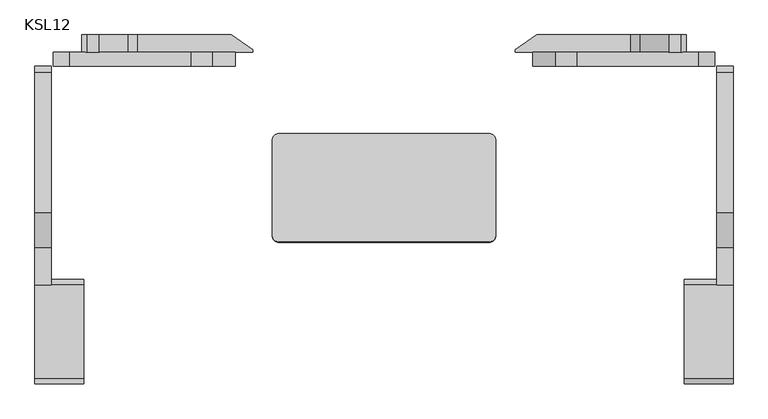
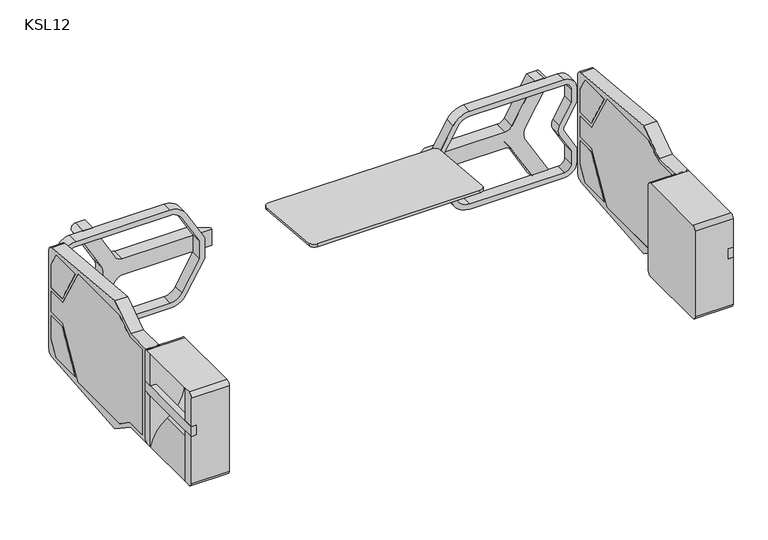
"""IFC4 building model written with IfcOpenShell, lengths in millimetres: proxy geometry, d&b SL-Series KSL : KSL12."""

from ifc_helpers import new_model, si_unit, point, frame, frame_2d, origin, place, context, project, spatial, polyline, circle_curve, trimmed, segment, composite_curve, outline, extrude, source, transform, mapped, element, save
from ifc_brep_helpers import plane_surface, cylinder_surface, revolved_surface, advanced_brep


def ksl12_ca8f280e(model_context):
    return source(origin(), model_context, "Body", "SolidModel", [
        advanced_brep(
        [(865.9830372, 210.1255973, -23.0744291), (907.8409317, 210.1255973, -95.5744291), (924.8127716, 210.1255973, -95.5744291), (932.0036451, 210.1255973, -83.1194708), (891.0638565, 210.1255973, -12.209677), (891.0638565, 210.1255973, 12.209677), (932.0036451, 210.1255973, 83.1194708), (924.8127716, 210.1255973, 95.5744291), (907.8409317, 210.1255973, 95.5744291), (865.98543, 210.1255973, 23.0785736), (852.995049, 210.1255973, 15.5785736), (687.9784595, 210.1255973, 15.5785736), (687.9784595, 210.1255973, -15.5744291), (852.9926561, 210.1255973, -15.5744291), (865.9830372, 235.1255973, -23.0744291), (852.9926561, 235.1255973, -15.5744291), (718.916993, 235.1255973, -15.5744291), (718.916993, 235.1255973, 15.5785736), (852.995049, 235.1255973, 15.5785736), (865.98543, 235.1255973, 23.0785736), (907.8409317, 235.1255973, 95.5744291), (924.8127716, 235.1255973, 95.5744291), (932.0036451, 235.1255973, 83.1194708), (891.0638565, 235.1255973, 12.209677), (891.0638565, 235.1255973, -12.209677), (932.0036451, 235.1255973, -83.1194708), (924.8127716, 235.1255973, -95.5744291), (907.8409317, 235.1255973, -95.5744291), (687.9784595, 214.1255973, -15.5744291), (687.9784595, 214.1255973, 15.5785736)],
        [
            (0, 1),
            (1, 2),
            (2, 3, circle_curve(frame((924.8127716, 210.1255973, -87.2711236), z_axis=(0.0, -1.0, 0.0), x_axis=(-1.0, 0.0, 0.0)), 8.3033055)),
            (3, 4),
            (4, 5, circle_curve(frame((912.2116375, 210.1255973, 0.0), z_axis=(0.0, 1.0, 0.0), x_axis=(-1.0, 0.0, 0.0)), 24.4193541)),
            (5, 6),
            (6, 7, circle_curve(frame((924.8127716, 210.1255973, 87.2711236), z_axis=(0.0, -1.0, 0.0), x_axis=(-1.0, 0.0, 0.0)), 8.3033055)),
            (7, 8),
            (8, 9),
            (9, 10, circle_curve(frame((852.995049, 210.1255973, 30.5785736), z_axis=(0.0, 1.0, 0.0), x_axis=(-1.0, 0.0, 0.0)), 15.0)),
            (10, 11),
            (11, 12),
            (12, 13),
            (13, 0, circle_curve(frame((852.9926561, 210.1255973, -30.5744291), z_axis=(0.0, 1.0, 0.0), x_axis=(-1.0, 0.0, 0.0)), 15.0)),
            (14, 15, circle_curve(frame((852.9926561, 235.1255973, -30.5744291), z_axis=(0.0, -1.0, 0.0), x_axis=(-1.0, 0.0, 0.0)), 15.0)),
            (15, 16),
            (16, 17),
            (17, 18),
            (18, 19, circle_curve(frame((852.995049, 235.1255973, 30.5785736), z_axis=(0.0, -1.0, 0.0), x_axis=(-1.0, 0.0, 0.0)), 15.0)),
            (19, 20),
            (20, 21),
            (21, 22, circle_curve(frame((924.8127716, 235.1255973, 87.2711236), z_axis=(0.0, 1.0, 0.0), x_axis=(-1.0, 0.0, 0.0)), 8.3033055)),
            (22, 23),
            (23, 24, circle_curve(frame((912.2116375, 235.1255973, 0.0), z_axis=(0.0, -1.0, 0.0), x_axis=(-1.0, 0.0, 0.0)), 24.4193541)),
            (24, 25),
            (25, 26, circle_curve(frame((924.8127716, 235.1255973, -87.2711236), z_axis=(0.0, 1.0, 0.0), x_axis=(-1.0, 0.0, 0.0)), 8.3033055)),
            (26, 27),
            (27, 14),
            (13, 15),
            (14, 0),
            (12, 28),
            (28, 16),
            (10, 18),
            (17, 29),
            (29, 11),
            (9, 19),
            (8, 20),
            (7, 21),
            (6, 22),
            (5, 23),
            (4, 24),
            (3, 25),
            (2, 26),
            (1, 27),
            (28, 29),
        ],
        [
            plane_surface(frame((906.5442544, 210.1255973, -93.3285181), z_axis=(0.0, -1.0, 0.0), x_axis=(0.5000000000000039, 0.0, -0.8660254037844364))),
            plane_surface(frame((906.5442544, 235.1255973, -93.3285181), z_axis=(0.0, 1.0, 0.0), x_axis=(-0.5000000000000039, 0.0, 0.8660254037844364))),
            revolved_surface(polyline([(837.9926561, 235.1255973, -30.5744291), (837.9926561, 210.1255973, -30.5744291)]), (852.9926561, 235.1255973, -30.5744291), (0.0, 1.0, 0.0)),
            plane_surface(frame((773.1519794, 210.1255973, -15.5744291), z_axis=(0.0, 0.0, -1.0), x_axis=(0.0, 1.0, 0.0))),
            plane_surface(frame((852.995049, 210.1255973, 15.5785736), z_axis=(0.0, 0.0, 1.0), x_axis=(0.0, 1.0, 0.0))),
            revolved_surface(polyline([(837.995049, 235.1255973, 30.5785736), (837.995049, 210.1255973, 30.5785736)]), (852.995049, 235.1255973, 30.5785736), (0.0, 1.0, 0.0)),
            plane_surface(frame((907.8409317, 210.1255973, 95.5744291), z_axis=(-0.8660254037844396, 0.0, 0.4999999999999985), x_axis=(0.0, 1.0, 0.0))),
            plane_surface(frame((924.8127716, 210.1255973, 95.5744291), z_axis=(0.0, 0.0, 1.0), x_axis=(0.0, 1.0, 0.0))),
            cylinder_surface(frame((924.8127716, 235.1255973, 87.2711236), z_axis=(0.0, -1.0, 0.0), x_axis=(-1.0, 0.0, 0.0)), 8.3033055),
            plane_surface(frame((891.0638565, 210.1255973, 12.209677), z_axis=(0.86602540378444, 0.0, -0.4999999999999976), x_axis=(0.0, 1.0, 0.0))),
            revolved_surface(polyline([(887.7922834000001, 235.1255973, 0.0), (887.7922834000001, 210.1255973, 0.0)]), (912.2116375, 235.1255973, 0.0), (0.0, 1.0, 0.0)),
            plane_surface(frame((932.0036451, 210.1255973, -83.1194708), z_axis=(0.8660254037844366, 0.0, 0.5000000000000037), x_axis=(0.0, 1.0, 0.0))),
            cylinder_surface(frame((924.8127716, 235.1255973, -87.2711236), z_axis=(0.0, -1.0, 0.0), x_axis=(-1.0, 0.0, 0.0)), 8.3033055),
            plane_surface(frame((907.8409317, 210.1255973, -95.5744291), z_axis=(0.0, 0.0, -1.0), x_axis=(0.0, 1.0, 0.0))),
            plane_surface(frame((865.9830372, 210.1255973, -23.0744291), z_axis=(-0.8660254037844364, 0.0, -0.5000000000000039), x_axis=(0.0, 1.0, 0.0))),
            plane_surface(frame((687.9784595, 214.1255973, -15.5744291), z_axis=(-0.5616111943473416, 0.8274012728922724, 0.0), x_axis=(0.0, 0.0, 1.0))),
            plane_surface(frame((687.9784595, 210.1255973, -15.5744291), z_axis=(-1.0, 0.0, 0.0), x_axis=(0.0, 0.0, 1.0))),
        ],
        [
            (0, [[1, 2, 3, 4, 5, 6, 7, 8, 9, 10, 11, 12, 13, 14]]),
            (1, [[15, 16, 17, 18, 19, 20, 21, 22, 23, 24, 25, 26, 27, 28]]),
            (2, [[-14, 29, -15, 30]]),
            (3, [[-13, 31, 32, -16, -29]]),
            (4, [[-11, 33, -18, 34, 35]]),
            (5, [[-10, 36, -19, -33]]),
            (6, [[-9, 37, -20, -36]]),
            (7, [[-8, 38, -21, -37]]),
            (8, [[-7, 39, -22, -38]]),
            (9, [[-6, 40, -23, -39]]),
            (10, [[-5, 41, -24, -40]]),
            (11, [[-4, 42, -25, -41]]),
            (12, [[-3, 43, -26, -42]]),
            (13, [[-2, 44, -27, -43]]),
            (14, [[-1, -30, -28, -44]]),
            (15, [[-32, 45, -34, -17]]),
            (16, [[-31, -12, -35, -45]]),
        ],
    ),
        extrude(outline(polyline([(147.6255973, -27.5), (182.6255973, -27.5), (182.6255973, -73.3671206), (167.1479395, -100.1752104), (105.666545, -100.1752104), (147.6255973, -27.5)])), frame((976.4, 0.0, 0.0), z_axis=(1.0, 0.0, 0.0), x_axis=(0.0, 1.0, 0.0)), (0.0, 0.0, 1.0), 23.6),
        extrude(outline(polyline([(147.6255973, 27.5), (105.666545, 100.1752104), (167.1479395, 100.1752104), (182.6255973, 73.3671206), (182.6255973, 27.5), (147.6255973, 27.5)])), frame((976.4, 0.0, 0.0), z_axis=(1.0, 0.0, 0.0), x_axis=(0.0, 1.0, 0.0)), (0.0, 0.0, 1.0), 23.6),
        extrude(outline(polyline([(-108.1244027, 83.5), (-68.3181857, 83.5), (-36.4059524, 105.1752104), (97.006291, 105.1752104), (146.1822216, 20.0), (182.6255973, 20.0), (182.6255973, -20.0), (146.1822216, -20.0), (97.006291, -105.1752104), (-36.4059524, -105.1752104), (-68.3181857, -83.5), (-108.1244027, -83.5), (-108.1244027, 83.5)])), frame((976.4, 0.0, 0.0), z_axis=(1.0, 0.0, 0.0), x_axis=(0.0, 1.0, 0.0)), (0.0, 0.0, 1.0), 23.6),
        extrude(outline(composite_curve([segment(polyline([(-123.1244027, 91.0), (-70.6244027, 91.0), (-20.6244027, 124.9606604), (181.0406135, 106.4302485)]), True, "CONTINUOUS"), segment(trimmed(circle_curve(frame_2d((180.1255973, 96.4721993)), 10.0), [point((181.0406135, 106.4302485))], [point((190.1255973, 96.4721993))], False, "CARTESIAN"), True, "CONTINUOUS"), segment(polyline([(190.1255973, 96.4721993), (190.1255973, -96.4721993)]), True, "CONTINUOUS"), segment(trimmed(circle_curve(frame_2d((180.1255973, -96.4721993)), 10.0), [point((190.1255973, -96.4721993))], [point((181.0406135, -106.4302485))], False, "CARTESIAN"), True, "CONTINUOUS"), segment(polyline([(181.0406135, -106.4302485), (-20.6244027, -124.9606604), (-70.6244027, -91.0), (-123.1244027, -91.0)]), True, "CONTINUOUS"), segment(trimmed(circle_curve(frame_2d((-123.1244027, -83.5)), 7.5), [point((-123.1244027, -91.0))], [point((-115.6244027, -83.5))], True, "CARTESIAN"), True, "CONTINUOUS"), segment(polyline([(-115.6244027, -83.5), (-115.6244027, 83.5)]), True, "CONTINUOUS"), segment(trimmed(circle_curve(frame_2d((-123.1244027, 83.5)), 7.5), [point((-115.6244027, 83.5))], [point((-123.1244027, 91.0))], True, "CARTESIAN"), True, "CONTINUOUS")], self_intersect=False), holes=[polyline([(105.666545, -100.1752104), (167.1479395, -100.1752104), (182.6255973, -73.3671206), (182.6255973, -27.5), (147.6255973, -27.5), (105.666545, -100.1752104)]), polyline([(-108.1244027, -83.5), (-68.3181857, -83.5), (-36.4059524, -105.1752104), (97.006291, -105.1752104), (146.1822216, -20.0), (182.6255973, -20.0), (182.6255973, 20.0), (146.1822216, 20.0), (97.006291, 105.1752104), (-36.4059524, 105.1752104), (-68.3181857, 83.5), (-108.1244027, 83.5), (-108.1244027, -83.5)]), polyline([(105.666545, 100.1752104), (147.6255973, 27.5), (182.6255973, 27.5), (182.6255973, 73.3671206), (167.1479395, 100.1752104), (105.666545, 100.1752104)])]), frame((976.4, 0.0, 0.0), z_axis=(1.0, 0.0, 0.0), x_axis=(0.0, 1.0, 0.0)), (0.0, 0.0, 1.0), 23.6),
        advanced_brep(
        [(930.0, -265.1244027, 83.5), (930.0, -257.6244027, 91.0), (930.0, -123.1244027, 91.0), (930.0, -115.6244027, 83.5), (930.0, -115.6244027, -83.5), (930.0, -123.1244027, -91.0), (930.0, -257.6244027, -91.0), (930.0, -265.1244027, -83.5), (1000.0, -245.3647345, 91.0), (1000.0, -257.6244027, 91.0), (1000.0, -265.1244027, 83.5), (1000.0, -265.1244027, 28.0243244), (1000.0, -245.3647345, 28.0243244), (1000.0, -257.6244027, -91.0), (1000.0, -245.3647345, -91.0), (1000.0, -245.3647345, 7.9757906), (1000.0, -265.1244027, 7.9757906), (1000.0, -265.1244027, -83.5), (1000.0, -134.3840709, 91.0), (1000.0, -134.3840709, 28.0243244), (1000.0, -115.6244027, 28.0243244), (1000.0, -115.6244027, 83.5), (1000.0, -123.1244027, 91.0), (1000.0, -123.1244027, -91.0), (1000.0, -115.6244027, -83.5), (1000.0, -115.6244027, 7.9757906), (1000.0, -134.3840709, 7.9757906), (1000.0, -134.3840709, -91.0), (990.0, -265.1244027, 7.9757906), (990.0, -265.1244027, 28.0243244), (990.0, -245.3647345, 7.9757906), (990.0, -245.3647345, 28.0243244), (968.7971722, -245.3647345, -45.0307847), (983.0638712, -245.3647345, 78.097449), (983.0638712, -134.3840709, 78.097449), (968.7971722, -134.3840709, -45.0307847), (990.0, -134.3840709, 7.9757906), (990.0, -134.3840709, 28.0243244), (990.0, -115.6244027, 7.9757906), (990.0, -115.6244027, 28.0243244)],
        [
            (0, 1, circle_curve(frame((930.0, -257.6244027, 83.5), z_axis=(-1.0, 0.0, 0.0), x_axis=(0.0, -1.0, 0.0)), 7.5)),
            (1, 2),
            (2, 3, circle_curve(frame((930.0, -123.1244027, 83.5), z_axis=(-1.0, 0.0, 0.0), x_axis=(0.0, -1.0, 0.0)), 7.5)),
            (3, 4),
            (4, 5, circle_curve(frame((930.0, -123.1244027, -83.5), z_axis=(-1.0, 0.0, 0.0), x_axis=(0.0, -1.0, 0.0)), 7.5)),
            (5, 6),
            (6, 7, circle_curve(frame((930.0, -257.6244027, -83.5), z_axis=(-1.0, 0.0, 0.0), x_axis=(0.0, -1.0, 0.0)), 7.5)),
            (7, 0),
            (8, 9),
            (9, 10, circle_curve(frame((1000.0, -257.6244027, 83.5), z_axis=(1.0, 0.0, 0.0), x_axis=(0.0, -1.0, 0.0)), 7.5)),
            (10, 11),
            (11, 12),
            (12, 8),
            (13, 14),
            (14, 15),
            (15, 16),
            (16, 17),
            (17, 13, circle_curve(frame((1000.0, -257.6244027, -83.5), z_axis=(1.0, 0.0, 0.0), x_axis=(0.0, -1.0, 0.0)), 7.5)),
            (18, 19),
            (19, 20),
            (20, 21),
            (21, 22, circle_curve(frame((1000.0, -123.1244027, 83.5), z_axis=(1.0, 0.0, 0.0), x_axis=(0.0, -1.0, 0.0)), 7.5)),
            (22, 18),
            (23, 24, circle_curve(frame((1000.0, -123.1244027, -83.5), z_axis=(1.0, 0.0, 0.0), x_axis=(0.0, -1.0, 0.0)), 7.5)),
            (24, 25),
            (25, 26),
            (26, 27),
            (27, 23),
            (10, 0),
            (7, 17),
            (16, 28),
            (28, 29),
            (29, 11),
            (1, 9),
            (8, 18),
            (22, 2),
            (5, 23),
            (27, 14),
            (13, 6),
            (15, 30),
            (30, 28),
            (12, 31),
            (31, 30),
            (14, 32, circle_curve(frame((930.9069456, -245.3647345, -104.3242664), z_axis=(0.0, -1.0, 0.0), x_axis=(-1.0, 0.0, 0.0)), 70.3660873)),
            (32, 33, circle_curve(frame((1005.918024, -245.3647345, 13.0587215), z_axis=(0.0, 1.0, 0.0), x_axis=(-1.0, 0.0, 0.0)), 68.9372786)),
            (33, 8, circle_curve(frame((971.6063721, -245.3647345, 110.7033903), z_axis=(0.0, -1.0, 0.0), x_axis=(-1.0, 0.0, 0.0)), 34.5604065)),
            (29, 31),
            (18, 34, circle_curve(frame((971.6063721, -134.3840709, 110.7033903), z_axis=(0.0, 1.0, 0.0), x_axis=(-1.0, 0.0, 0.0)), 34.5604065)),
            (34, 35, circle_curve(frame((1005.918024, -134.3840709, 13.0587215), z_axis=(0.0, -1.0, 0.0), x_axis=(-1.0, 0.0, 0.0)), 68.9372786)),
            (35, 27, circle_curve(frame((930.9069456, -134.3840709, -104.3242664), z_axis=(0.0, 1.0, 0.0), x_axis=(-1.0, 0.0, 0.0)), 70.3660873)),
            (26, 36),
            (36, 37),
            (37, 19),
            (25, 38),
            (38, 36),
            (20, 39),
            (39, 38),
            (24, 4),
            (3, 21),
            (37, 39),
            (34, 33),
            (32, 35),
        ],
        [
            plane_surface(frame((930.0, -265.1244027, -83.5), z_axis=(-1.0, 0.0, 0.0), x_axis=(0.0, 0.0, 1.0))),
            plane_surface(frame((1000.0, -265.1244027, -83.5), z_axis=(1.0, 0.0, 0.0), x_axis=(0.0, 0.0, -1.0))),
            plane_surface(frame((930.0, -265.1244027, -83.5), z_axis=(0.0, -1.0, 0.0), x_axis=(1.0, 0.0, 0.0))),
            plane_surface(frame((930.0, -257.6244027, 91.0), z_axis=(0.0, 0.0, 1.0), x_axis=(1.0, 0.0, 0.0))),
            plane_surface(frame((930.0, -245.3647345, -91.0), z_axis=(0.0, 0.0, -1.0), x_axis=(1.0, 0.0, 0.0))),
            plane_surface(frame((930.0, -265.1244027, 7.9757906), z_axis=(0.0, 0.0, 1.0), x_axis=(1.0, 0.0, 0.0))),
            plane_surface(frame((930.0, -245.3647345, 7.9757906), z_axis=(0.0, 1.0, 0.0), x_axis=(1.0, 0.0, 0.0))),
            plane_surface(frame((930.0, -245.3647345, 28.0243244), z_axis=(0.0, 0.0, -1.0), x_axis=(1.0, 0.0, 0.0))),
            plane_surface(frame((930.0, -134.3840709, -91.0), z_axis=(0.0, -1.0, 0.0), x_axis=(1.0, 0.0, 0.0))),
            plane_surface(frame((930.0, -134.3840709, 7.9757906), z_axis=(0.0, 0.0, 1.0), x_axis=(1.0, 0.0, 0.0))),
            plane_surface(frame((930.0, -115.6244027, 7.9757906), z_axis=(0.0, 1.0, 0.0), x_axis=(1.0, 0.0, 0.0))),
            plane_surface(frame((930.0, -115.6244027, 28.0243244), z_axis=(0.0, 0.0, -1.0), x_axis=(1.0, 0.0, 0.0))),
            plane_surface(frame((990.0, -239.1244027, 28.0243244), z_axis=(1.0, 0.0, 0.0), x_axis=(0.0, -1.0, 0.0))),
            revolved_surface(polyline([(936.9807453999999, -245.3647345, 13.0587215), (936.9807453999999, -134.3840709, 13.0587215)]), (1005.918024, -245.3647345, 13.0587215), (0.0, -1.0, 0.0)),
            cylinder_surface(frame((1000.0, -257.6244027, -83.5), z_axis=(-1.0, 0.0, 0.0), x_axis=(0.0, -1.0, 0.0)), 7.5),
            cylinder_surface(frame((1000.0, -257.6244027, 83.5), z_axis=(-1.0, 0.0, 0.0), x_axis=(0.0, -1.0, 0.0)), 7.5),
            cylinder_surface(frame((1000.0, -123.1244027, -83.5), z_axis=(-1.0, 0.0, 0.0), x_axis=(0.0, -1.0, 0.0)), 7.5),
            cylinder_surface(frame((1000.0, -123.1244027, 83.5), z_axis=(-1.0, 0.0, 0.0), x_axis=(0.0, -1.0, 0.0)), 7.5),
            cylinder_surface(frame((930.9069456, -245.3647345, -104.3242664), z_axis=(0.0, 1.0, 0.0), x_axis=(-1.0, 0.0, 0.0)), 70.3660873),
            cylinder_surface(frame((971.6063721, -245.3647345, 110.7033903), z_axis=(0.0, 1.0, 0.0), x_axis=(-1.0, 0.0, 0.0)), 34.5604065),
        ],
        [
            (0, [[1, 2, 3, 4, 5, 6, 7, 8]]),
            (1, [[9, 10, 11, 12, 13]]),
            (1, [[14, 15, 16, 17, 18]]),
            (1, [[19, 20, 21, 22, 23]]),
            (1, [[24, 25, 26, 27, 28]]),
            (2, [[-11, 29, -8, 30, -17, 31, 32, 33]]),
            (3, [[-2, 34, -9, 35, -23, 36]]),
            (4, [[-6, 37, -28, 38, -14, 39]]),
            (5, [[-16, 40, 41, -31]]),
            (6, [[-13, 42, 43, -40, -15, 44, 45, 46]]),
            (7, [[-12, -33, 47, -42]]),
            (8, [[-19, 48, 49, 50, -27, 51, 52, 53]]),
            (9, [[-26, 54, 55, -51]]),
            (10, [[-21, 56, 57, -54, -25, 58, -4, 59]]),
            (11, [[-20, -53, 60, -56]]),
            (12, [[-32, -41, -43, -47]]),
            (12, [[-52, -55, -57, -60]]),
            (13, [[61, -45, 62, -49]]),
            (14, [[-7, -39, -18, -30]]),
            (15, [[-1, -29, -10, -34]]),
            (16, [[-5, -58, -24, -37]]),
            (17, [[-3, -36, -22, -59]]),
            (18, [[-38, -50, -62, -44]]),
            (19, [[-35, -46, -61, -48]]),
        ],
    ),
        extrude(outline(polyline([(990.0, -265.1244027), (990.0, -115.6244027), (1000.0, -115.6244027), (1000.0, -265.1244027), (990.0, -265.1244027)])), frame((0.0, 0.0, 7.9757906), z_axis=(0.0, 0.0, 1.0), x_axis=(1.0, 0.0, 0.0)), (0.0, 0.0, 1.0), 20.0485339),
        extrude(outline(composite_curve([segment(trimmed(circle_curve(frame_2d((-72.3807468, 950.8543039)), 23.2), [point((-95.5807468, 950.8543039))], [point((-72.3807468, 974.0543039))], False, "CARTESIAN"), True, "CONTINUOUS"), segment(polyline([(-72.3807468, 974.0543039), (-44.8443894, 974.0543039), (-4.9968137, 951.0482953)]), True, "CONTINUOUS"), segment(trimmed(circle_curve(frame_2d((0.0, 959.7030305)), 9.9936274), [point((-4.9968137, 951.0482953))], [point((4.9968137, 951.0482953))], True, "CARTESIAN"), True, "CONTINUOUS"), segment(polyline([(4.9968137, 951.0482953), (44.8443894, 974.0543039), (72.3807468, 974.0543039)]), True, "CONTINUOUS"), segment(trimmed(circle_curve(frame_2d((72.3807468, 950.8543039)), 23.2), [point((72.3807468, 974.0543039))], [point((95.5807468, 950.8543039))], False, "CARTESIAN"), True, "CONTINUOUS"), segment(polyline([(95.5807468, 950.8543039), (95.5807468, 776.7622624)]), True, "CONTINUOUS"), segment(trimmed(circle_curve(frame_2d((60.3807468, 776.7622624)), 35.2), [point((95.5807468, 776.7622624))], [point((77.9807468, 746.2781682))], False, "CARTESIAN"), True, "CONTINUOUS"), segment(polyline([(77.9807468, 746.2781682), (20.0690081, 712.8428103), (-20.0690081, 712.8428103), (-77.9807468, 746.2781682)]), True, "CONTINUOUS"), segment(trimmed(circle_curve(frame_2d((-60.3807468, 776.7622624)), 35.2), [point((-77.9807468, 746.2781682))], [point((-95.5807468, 776.7622624))], False, "CARTESIAN"), True, "CONTINUOUS"), segment(polyline([(-95.5807468, 776.7622624), (-95.5807468, 950.8543039)]), True, "CONTINUOUS")], self_intersect=False), holes=[composite_curve([segment(polyline([(-85.4307468, 950.9043039), (-85.4307468, 776.7333949)]), True, "CONTINUOUS"), segment(trimmed(circle_curve(frame_2d((-60.4307468, 776.7333949)), 25.0), [point((-85.4307468, 776.7333949))], [point((-72.9307468, 755.0827598))], True, "CARTESIAN"), True, "CONTINUOUS"), segment(polyline([(-72.9307468, 755.0827598), (-17.4359263, 723.0428103), (17.4359263, 723.0428103), (72.9307468, 755.0827598)]), True, "CONTINUOUS"), segment(trimmed(circle_curve(frame_2d((60.4307468, 776.7333949)), 25.0), [point((72.9307468, 755.0827598))], [point((85.4307468, 776.7333949))], True, "CARTESIAN"), True, "CONTINUOUS"), segment(polyline([(85.4307468, 776.7333949), (85.4307468, 950.9043039)]), True, "CONTINUOUS"), segment(trimmed(circle_curve(frame_2d((72.4307468, 950.9043039)), 13.0), [point((85.4307468, 950.9043039))], [point((72.4307468, 963.9043039))], True, "CARTESIAN"), True, "CONTINUOUS"), segment(polyline([(72.4307468, 963.9043039), (47.5640737, 963.9043039), (10.0718137, 942.2581375)]), True, "CONTINUOUS"), segment(trimmed(circle_curve(frame_2d((0.0, 959.7030305)), 20.1436274), [point((10.0718137, 942.2581375))], [point((-10.0718137, 942.2581375))], False, "CARTESIAN"), True, "CONTINUOUS"), segment(polyline([(-10.0718137, 942.2581375), (-47.5640737, 963.9043039), (-72.4307468, 963.9043039)]), True, "CONTINUOUS"), segment(trimmed(circle_curve(frame_2d((-72.4307468, 950.9043039)), 13.0), [point((-72.4307468, 963.9043039))], [point((-85.4307468, 950.9043039))], True, "CARTESIAN"), True, "CONTINUOUS")], self_intersect=False)]), frame((0.0, 190.1255973, 0.0), z_axis=(0.0, 1.0, 0.0), x_axis=(0.0, 0.0, 1.0)), (0.0, 0.0, 1.0), 20.0),
        advanced_brep(
        [(134.0169628, 210.1255973, -23.0744291), (147.0073439, 210.1255973, -15.5744291), (312.0215405, 210.1255973, -15.5744291), (312.0215405, 210.1255973, 15.5785736), (147.004951, 210.1255973, 15.5785736), (134.01457, 210.1255973, 23.0785736), (92.1590683, 210.1255973, 95.5744291), (75.1872284, 210.1255973, 95.5744291), (67.9963549, 210.1255973, 83.1194708), (108.9361435, 210.1255973, 12.209677), (108.9361435, 210.1255973, -12.209677), (67.9963549, 210.1255973, -83.1194708), (75.1872284, 210.1255973, -95.5744291), (92.1590683, 210.1255973, -95.5744291), (134.0169628, 235.1255973, -23.0744291), (92.1590683, 235.1255973, -95.5744291), (75.1872284, 235.1255973, -95.5744291), (67.9963549, 235.1255973, -83.1194708), (108.9361435, 235.1255973, -12.209677), (108.9361435, 235.1255973, 12.209677), (67.9963549, 235.1255973, 83.1194708), (75.1872284, 235.1255973, 95.5744291), (92.1590683, 235.1255973, 95.5744291), (134.01457, 235.1255973, 23.0785736), (147.004951, 235.1255973, 15.5785736), (281.083007, 235.1255973, 15.5785736), (281.083007, 235.1255973, -15.5744291), (147.0073439, 235.1255973, -15.5744291), (312.0215405, 214.1255973, -15.5744291), (312.0215405, 214.1255973, 15.5785736)],
        [
            (0, 1, circle_curve(frame((147.0073439, 210.1255973, -30.5744291), z_axis=(0.0, 1.0, 0.0), x_axis=(1.0, 0.0, 0.0)), 15.0)),
            (1, 2),
            (2, 3),
            (3, 4),
            (4, 5, circle_curve(frame((147.004951, 210.1255973, 30.5785736), z_axis=(0.0, 1.0, 0.0), x_axis=(1.0, 0.0, 0.0)), 15.0)),
            (5, 6),
            (6, 7),
            (7, 8, circle_curve(frame((75.1872284, 210.1255973, 87.2711236), z_axis=(0.0, -1.0, 0.0), x_axis=(1.0, 0.0, 0.0)), 8.3033055)),
            (8, 9),
            (9, 10, circle_curve(frame((87.7883625, 210.1255973, 0.0), z_axis=(0.0, 1.0, 0.0), x_axis=(1.0, 0.0, 0.0)), 24.4193541)),
            (10, 11),
            (11, 12, circle_curve(frame((75.1872284, 210.1255973, -87.2711236), z_axis=(0.0, -1.0, 0.0), x_axis=(1.0, 0.0, 0.0)), 8.3033055)),
            (12, 13),
            (13, 0),
            (14, 15),
            (15, 16),
            (16, 17, circle_curve(frame((75.1872284, 235.1255973, -87.2711236), z_axis=(0.0, 1.0, 0.0), x_axis=(1.0, 0.0, 0.0)), 8.3033055)),
            (17, 18),
            (18, 19, circle_curve(frame((87.7883625, 235.1255973, 0.0), z_axis=(0.0, -1.0, 0.0), x_axis=(1.0, 0.0, 0.0)), 24.4193541)),
            (19, 20),
            (20, 21, circle_curve(frame((75.1872284, 235.1255973, 87.2711236), z_axis=(0.0, 1.0, 0.0), x_axis=(1.0, 0.0, 0.0)), 8.3033055)),
            (21, 22),
            (22, 23),
            (23, 24, circle_curve(frame((147.004951, 235.1255973, 30.5785736), z_axis=(0.0, -1.0, 0.0), x_axis=(1.0, 0.0, 0.0)), 15.0)),
            (24, 25),
            (25, 26),
            (26, 27),
            (27, 14, circle_curve(frame((147.0073439, 235.1255973, -30.5744291), z_axis=(0.0, -1.0, 0.0), x_axis=(1.0, 0.0, 0.0)), 15.0)),
            (0, 14),
            (27, 1),
            (26, 28),
            (28, 2),
            (3, 29),
            (29, 25),
            (24, 4),
            (23, 5),
            (22, 6),
            (21, 7),
            (20, 8),
            (19, 9),
            (18, 10),
            (17, 11),
            (16, 12),
            (15, 13),
            (29, 28),
        ],
        [
            plane_surface(frame((93.4557456, 210.1255973, -93.3285181), z_axis=(0.0, -1.0, 0.0), x_axis=(-0.5000000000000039, 0.0, -0.8660254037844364))),
            plane_surface(frame((93.4557456, 235.1255973, -93.3285181), z_axis=(0.0, 1.0, 0.0), x_axis=(0.5000000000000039, 0.0, 0.8660254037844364))),
            revolved_surface(polyline([(162.0073439, 235.1255973, -30.5744291), (162.0073439, 210.1255973, -30.5744291)]), (147.0073439, 235.1255973, -30.5744291), (0.0, 1.0, 0.0)),
            plane_surface(frame((226.8480206, 210.1255973, -15.5744291), z_axis=(0.0, 0.0, -1.0), x_axis=(0.0, 1.0, 0.0))),
            plane_surface(frame((147.004951, 210.1255973, 15.5785736), z_axis=(0.0, 0.0, 1.0), x_axis=(0.0, 1.0, 0.0))),
            revolved_surface(polyline([(162.004951, 235.1255973, 30.5785736), (162.004951, 210.1255973, 30.5785736)]), (147.004951, 235.1255973, 30.5785736), (0.0, 1.0, 0.0)),
            plane_surface(frame((92.1590683, 210.1255973, 95.5744291), z_axis=(0.8660254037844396, 0.0, 0.4999999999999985), x_axis=(0.0, 1.0, 0.0))),
            plane_surface(frame((75.1872284, 210.1255973, 95.5744291), z_axis=(0.0, 0.0, 1.0), x_axis=(0.0, 1.0, 0.0))),
            cylinder_surface(frame((75.1872284, 235.1255973, 87.2711236), z_axis=(0.0, -1.0, 0.0), x_axis=(1.0, 0.0, 0.0)), 8.3033055),
            plane_surface(frame((108.9361435, 210.1255973, 12.209677), z_axis=(-0.86602540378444, 0.0, -0.4999999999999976), x_axis=(0.0, 1.0, 0.0))),
            revolved_surface(polyline([(112.2077166, 235.1255973, 0.0), (112.2077166, 210.1255973, 0.0)]), (87.7883625, 235.1255973, 0.0), (0.0, 1.0, 0.0)),
            plane_surface(frame((67.9963549, 210.1255973, -83.1194708), z_axis=(-0.8660254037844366, 0.0, 0.5000000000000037), x_axis=(0.0, 1.0, 0.0))),
            cylinder_surface(frame((75.1872284, 235.1255973, -87.2711236), z_axis=(0.0, -1.0, 0.0), x_axis=(1.0, 0.0, 0.0)), 8.3033055),
            plane_surface(frame((92.1590683, 210.1255973, -95.5744291), z_axis=(0.0, 0.0, -1.0), x_axis=(0.0, 1.0, 0.0))),
            plane_surface(frame((134.0169628, 210.1255973, -23.0744291), z_axis=(0.8660254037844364, 0.0, -0.5000000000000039), x_axis=(0.0, 1.0, 0.0))),
            plane_surface(frame((312.0215405, 214.1255973, -15.5744291), z_axis=(0.5616111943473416, 0.8274012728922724, 0.0), x_axis=(0.0, 0.0, 1.0))),
            plane_surface(frame((312.0215405, 210.1255973, -15.5744291), z_axis=(1.0, 0.0, 0.0), x_axis=(0.0, 0.0, 1.0))),
        ],
        [
            (0, [[1, 2, 3, 4, 5, 6, 7, 8, 9, 10, 11, 12, 13, 14]]),
            (1, [[15, 16, 17, 18, 19, 20, 21, 22, 23, 24, 25, 26, 27, 28]]),
            (2, [[29, -28, 30, -1]]),
            (3, [[-30, -27, 31, 32, -2]]),
            (4, [[33, 34, -25, 35, -4]]),
            (5, [[-35, -24, 36, -5]]),
            (6, [[-36, -23, 37, -6]]),
            (7, [[-37, -22, 38, -7]]),
            (8, [[-38, -21, 39, -8]]),
            (9, [[-39, -20, 40, -9]]),
            (10, [[-40, -19, 41, -10]]),
            (11, [[-41, -18, 42, -11]]),
            (12, [[-42, -17, 43, -12]]),
            (13, [[-43, -16, 44, -13]]),
            (14, [[-44, -15, -29, -14]]),
            (15, [[-26, -34, 45, -31]]),
            (16, [[-45, -33, -3, -32]]),
        ],
    ),
        extrude(outline(polyline([(147.6255973, -27.5), (182.6255973, -27.5), (182.6255973, -73.3671206), (167.1479395, -100.1752104), (105.666545, -100.1752104), (147.6255973, -27.5)])), frame((0.0, 0.0, 0.0), z_axis=(1.0, 0.0, 0.0), x_axis=(0.0, 1.0, 0.0)), (0.0, 0.0, 1.0), 23.6),
        extrude(outline(polyline([(147.6255973, 27.5), (105.666545, 100.1752104), (167.1479395, 100.1752104), (182.6255973, 73.3671206), (182.6255973, 27.5), (147.6255973, 27.5)])), frame((0.0, 0.0, 0.0), z_axis=(1.0, 0.0, 0.0), x_axis=(0.0, 1.0, 0.0)), (0.0, 0.0, 1.0), 23.6),
        extrude(outline(polyline([(-108.1244027, 83.5), (-68.3181857, 83.5), (-36.4059524, 105.1752104), (97.006291, 105.1752104), (146.1822216, 20.0), (182.6255973, 20.0), (182.6255973, -20.0), (146.1822216, -20.0), (97.006291, -105.1752104), (-36.4059524, -105.1752104), (-68.3181857, -83.5), (-108.1244027, -83.5), (-108.1244027, 83.5)])), frame((0.0, 0.0, 0.0), z_axis=(1.0, 0.0, 0.0), x_axis=(0.0, 1.0, 0.0)), (0.0, 0.0, 1.0), 23.6),
        extrude(outline(composite_curve([segment(polyline([(-123.1244027, 91.0), (-70.6244027, 91.0), (-20.6244027, 124.9606604), (181.0406135, 106.4302485)]), True, "CONTINUOUS"), segment(trimmed(circle_curve(frame_2d((180.1255973, 96.4721993)), 10.0), [point((181.0406135, 106.4302485))], [point((190.1255973, 96.4721993))], False, "CARTESIAN"), True, "CONTINUOUS"), segment(polyline([(190.1255973, 96.4721993), (190.1255973, -96.4721993)]), True, "CONTINUOUS"), segment(trimmed(circle_curve(frame_2d((180.1255973, -96.4721993)), 10.0), [point((190.1255973, -96.4721993))], [point((181.0406135, -106.4302485))], False, "CARTESIAN"), True, "CONTINUOUS"), segment(polyline([(181.0406135, -106.4302485), (-20.6244027, -124.9606604), (-70.6244027, -91.0), (-123.1244027, -91.0)]), True, "CONTINUOUS"), segment(trimmed(circle_curve(frame_2d((-123.1244027, -83.5)), 7.5), [point((-123.1244027, -91.0))], [point((-115.6244027, -83.5))], True, "CARTESIAN"), True, "CONTINUOUS"), segment(polyline([(-115.6244027, -83.5), (-115.6244027, 83.5)]), True, "CONTINUOUS"), segment(trimmed(circle_curve(frame_2d((-123.1244027, 83.5)), 7.5), [point((-115.6244027, 83.5))], [point((-123.1244027, 91.0))], True, "CARTESIAN"), True, "CONTINUOUS")], self_intersect=False), holes=[polyline([(105.666545, -100.1752104), (167.1479395, -100.1752104), (182.6255973, -73.3671206), (182.6255973, -27.5), (147.6255973, -27.5), (105.666545, -100.1752104)]), polyline([(-108.1244027, -83.5), (-68.3181857, -83.5), (-36.4059524, -105.1752104), (97.006291, -105.1752104), (146.1822216, -20.0), (182.6255973, -20.0), (182.6255973, 20.0), (146.1822216, 20.0), (97.006291, 105.1752104), (-36.4059524, 105.1752104), (-68.3181857, 83.5), (-108.1244027, 83.5), (-108.1244027, -83.5)]), polyline([(105.666545, 100.1752104), (147.6255973, 27.5), (182.6255973, 27.5), (182.6255973, 73.3671206), (167.1479395, 100.1752104), (105.666545, 100.1752104)])]), frame((0.0, 0.0, 0.0), z_axis=(1.0, 0.0, 0.0), x_axis=(0.0, 1.0, 0.0)), (0.0, 0.0, 1.0), 23.6),
        advanced_brep(
        [(70.0, -265.1244027, 83.5), (70.0, -265.1244027, -83.5), (70.0, -257.6244027, -91.0), (70.0, -123.1244027, -91.0), (70.0, -115.6244027, -83.5), (70.0, -115.6244027, 83.5), (70.0, -123.1244027, 91.0), (70.0, -257.6244027, 91.0), (0.0, -245.3647345, 91.0), (0.0, -245.3647345, 28.0243244), (0.0, -265.1244027, 28.0243244), (0.0, -265.1244027, 83.5), (0.0, -257.6244027, 91.0), (0.0, -123.1244027, -91.0), (0.0, -134.3840709, -91.0), (0.0, -134.3840709, 7.9757906), (0.0, -115.6244027, 7.9757906), (0.0, -115.6244027, -83.5), (0.0, -134.3840709, 91.0), (0.0, -123.1244027, 91.0), (0.0, -115.6244027, 83.5), (0.0, -115.6244027, 28.0243244), (0.0, -134.3840709, 28.0243244), (0.0, -257.6244027, -91.0), (0.0, -265.1244027, -83.5), (0.0, -265.1244027, 7.9757906), (0.0, -245.3647345, 7.9757906), (0.0, -245.3647345, -91.0), (10.0, -265.1244027, 28.0243244), (10.0, -265.1244027, 7.9757906), (10.0, -245.3647345, 7.9757906), (16.9361288, -245.3647345, 78.097449), (31.2028278, -245.3647345, -45.0307847), (10.0, -245.3647345, 28.0243244), (10.0, -134.3840709, 28.0243244), (10.0, -134.3840709, 7.9757906), (31.2028278, -134.3840709, -45.0307847), (16.9361288, -134.3840709, 78.097449), (10.0, -115.6244027, 7.9757906), (10.0, -115.6244027, 28.0243244)],
        [
            (0, 1),
            (1, 2, circle_curve(frame((70.0, -257.6244027, -83.5), z_axis=(1.0, 0.0, 0.0), x_axis=(0.0, -1.0, 0.0)), 7.5)),
            (2, 3),
            (3, 4, circle_curve(frame((70.0, -123.1244027, -83.5), z_axis=(1.0, 0.0, 0.0), x_axis=(0.0, -1.0, 0.0)), 7.5)),
            (4, 5),
            (5, 6, circle_curve(frame((70.0, -123.1244027, 83.5), z_axis=(1.0, 0.0, 0.0), x_axis=(0.0, -1.0, 0.0)), 7.5)),
            (6, 7),
            (7, 0, circle_curve(frame((70.0, -257.6244027, 83.5), z_axis=(1.0, 0.0, 0.0), x_axis=(0.0, -1.0, 0.0)), 7.5)),
            (8, 9),
            (9, 10),
            (10, 11),
            (11, 12, circle_curve(frame((0.0, -257.6244027, 83.5), z_axis=(-1.0, 0.0, 0.0), x_axis=(0.0, -1.0, 0.0)), 7.5)),
            (12, 8),
            (13, 14),
            (14, 15),
            (15, 16),
            (16, 17),
            (17, 13, circle_curve(frame((0.0, -123.1244027, -83.5), z_axis=(-1.0, 0.0, 0.0), x_axis=(0.0, -1.0, 0.0)), 7.5)),
            (18, 19),
            (19, 20, circle_curve(frame((0.0, -123.1244027, 83.5), z_axis=(-1.0, 0.0, 0.0), x_axis=(0.0, -1.0, 0.0)), 7.5)),
            (20, 21),
            (21, 22),
            (22, 18),
            (23, 24, circle_curve(frame((0.0, -257.6244027, -83.5), z_axis=(-1.0, 0.0, 0.0), x_axis=(0.0, -1.0, 0.0)), 7.5)),
            (24, 25),
            (25, 26),
            (26, 27),
            (27, 23),
            (10, 28),
            (28, 29),
            (29, 25),
            (24, 1),
            (0, 11),
            (6, 19),
            (18, 8),
            (12, 7),
            (2, 23),
            (27, 14),
            (13, 3),
            (29, 30),
            (30, 26),
            (8, 31, circle_curve(frame((28.3936279, -245.3647345, 110.7033903), z_axis=(0.0, -1.0, 0.0), x_axis=(1.0, 0.0, 0.0)), 34.5604065)),
            (31, 32, circle_curve(frame((-5.918024, -245.3647345, 13.0587215), z_axis=(0.0, 1.0, 0.0), x_axis=(1.0, 0.0, 0.0)), 68.9372786)),
            (32, 27, circle_curve(frame((69.0930544, -245.3647345, -104.3242664), z_axis=(0.0, -1.0, 0.0), x_axis=(1.0, 0.0, 0.0)), 70.3660873)),
            (30, 33),
            (33, 9),
            (33, 28),
            (22, 34),
            (34, 35),
            (35, 15),
            (14, 36, circle_curve(frame((69.0930544, -134.3840709, -104.3242664), z_axis=(0.0, 1.0, 0.0), x_axis=(1.0, 0.0, 0.0)), 70.3660873)),
            (36, 37, circle_curve(frame((-5.918024, -134.3840709, 13.0587215), z_axis=(0.0, -1.0, 0.0), x_axis=(1.0, 0.0, 0.0)), 68.9372786)),
            (37, 18, circle_curve(frame((28.3936279, -134.3840709, 110.7033903), z_axis=(0.0, 1.0, 0.0), x_axis=(1.0, 0.0, 0.0)), 34.5604065)),
            (35, 38),
            (38, 16),
            (20, 5),
            (4, 17),
            (38, 39),
            (39, 21),
            (39, 34),
            (36, 32),
            (31, 37),
        ],
        [
            plane_surface(frame((70.0, -265.1244027, -83.5), z_axis=(1.0, 0.0, 0.0), x_axis=(0.0, 0.0, 1.0))),
            plane_surface(frame((0.0, -265.1244027, -83.5), z_axis=(-1.0, 0.0, 0.0), x_axis=(0.0, 0.0, -1.0))),
            plane_surface(frame((70.0, -265.1244027, -83.5), z_axis=(0.0, -1.0, 0.0), x_axis=(-1.0, 0.0, 0.0))),
            plane_surface(frame((70.0, -257.6244027, 91.0), z_axis=(0.0, 0.0, 1.0), x_axis=(-1.0, 0.0, 0.0))),
            plane_surface(frame((70.0, -245.3647345, -91.0), z_axis=(0.0, 0.0, -1.0), x_axis=(-1.0, 0.0, 0.0))),
            plane_surface(frame((70.0, -265.1244027, 7.9757906), z_axis=(0.0, 0.0, 1.0), x_axis=(-1.0, 0.0, 0.0))),
            plane_surface(frame((70.0, -245.3647345, 7.9757906), z_axis=(0.0, 1.0, 0.0), x_axis=(-1.0, 0.0, 0.0))),
            plane_surface(frame((70.0, -245.3647345, 28.0243244), z_axis=(0.0, 0.0, -1.0), x_axis=(-1.0, 0.0, 0.0))),
            plane_surface(frame((70.0, -134.3840709, -91.0), z_axis=(0.0, -1.0, 0.0), x_axis=(-1.0, 0.0, 0.0))),
            plane_surface(frame((70.0, -134.3840709, 7.9757906), z_axis=(0.0, 0.0, 1.0), x_axis=(-1.0, 0.0, 0.0))),
            plane_surface(frame((70.0, -115.6244027, 7.9757906), z_axis=(0.0, 1.0, 0.0), x_axis=(-1.0, 0.0, 0.0))),
            plane_surface(frame((70.0, -115.6244027, 28.0243244), z_axis=(0.0, 0.0, -1.0), x_axis=(-1.0, 0.0, 0.0))),
            plane_surface(frame((10.0, -239.1244027, 28.0243244), z_axis=(-1.0, 0.0, 0.0), x_axis=(0.0, -1.0, 0.0))),
            revolved_surface(polyline([(63.0192546, -245.3647345, 13.0587215), (63.0192546, -134.3840709, 13.0587215)]), (-5.918024, -245.3647345, 13.0587215), (0.0, -1.0, 0.0)),
            cylinder_surface(frame((0.0, -257.6244027, -83.5), z_axis=(1.0, 0.0, 0.0), x_axis=(0.0, -1.0, 0.0)), 7.5),
            cylinder_surface(frame((0.0, -257.6244027, 83.5), z_axis=(1.0, 0.0, 0.0), x_axis=(0.0, -1.0, 0.0)), 7.5),
            cylinder_surface(frame((0.0, -123.1244027, -83.5), z_axis=(1.0, 0.0, 0.0), x_axis=(0.0, -1.0, 0.0)), 7.5),
            cylinder_surface(frame((0.0, -123.1244027, 83.5), z_axis=(1.0, 0.0, 0.0), x_axis=(0.0, -1.0, 0.0)), 7.5),
            cylinder_surface(frame((69.0930544, -245.3647345, -104.3242664), z_axis=(0.0, 1.0, 0.0), x_axis=(1.0, 0.0, 0.0)), 70.3660873),
            cylinder_surface(frame((28.3936279, -245.3647345, 110.7033903), z_axis=(0.0, 1.0, 0.0), x_axis=(1.0, 0.0, 0.0)), 34.5604065),
        ],
        [
            (0, [[1, 2, 3, 4, 5, 6, 7, 8]]),
            (1, [[9, 10, 11, 12, 13]]),
            (1, [[14, 15, 16, 17, 18]]),
            (1, [[19, 20, 21, 22, 23]]),
            (1, [[24, 25, 26, 27, 28]]),
            (2, [[29, 30, 31, -25, 32, -1, 33, -11]]),
            (3, [[34, -19, 35, -13, 36, -7]]),
            (4, [[37, -28, 38, -14, 39, -3]]),
            (5, [[-31, 40, 41, -26]]),
            (6, [[42, 43, 44, -27, -41, 45, 46, -9]]),
            (7, [[-46, 47, -29, -10]]),
            (8, [[48, 49, 50, -15, 51, 52, 53, -23]]),
            (9, [[-50, 54, 55, -16]]),
            (10, [[56, -5, 57, -17, -55, 58, 59, -21]]),
            (11, [[-59, 60, -48, -22]]),
            (12, [[-47, -45, -40, -30]]),
            (12, [[-60, -58, -54, -49]]),
            (13, [[-52, 61, -43, 62]]),
            (14, [[-32, -24, -37, -2]]),
            (15, [[-36, -12, -33, -8]]),
            (16, [[-39, -18, -57, -4]]),
            (17, [[-56, -20, -34, -6]]),
            (18, [[-44, -61, -51, -38]]),
            (19, [[-53, -62, -42, -35]]),
        ],
    ),
        extrude(outline(polyline([(10.0, -265.1244027), (0.0, -265.1244027), (0.0, -115.6244027), (10.0, -115.6244027), (10.0, -265.1244027)])), frame((0.0, 0.0, 7.9757906), z_axis=(0.0, 0.0, 1.0), x_axis=(1.0, 0.0, 0.0)), (0.0, 0.0, 1.0), 20.0485339),
        extrude(outline(composite_curve([segment(polyline([(-95.5807468, 49.1456961), (-95.5807468, 223.2377376)]), True, "CONTINUOUS"), segment(trimmed(circle_curve(frame_2d((-60.3807468, 223.2377376)), 35.2), [point((-95.5807468, 223.2377376))], [point((-77.9807468, 253.7218318))], False, "CARTESIAN"), True, "CONTINUOUS"), segment(polyline([(-77.9807468, 253.7218318), (-20.0690081, 287.1571897), (20.0690081, 287.1571897), (77.9807468, 253.7218318)]), True, "CONTINUOUS"), segment(trimmed(circle_curve(frame_2d((60.3807468, 223.2377376)), 35.2), [point((77.9807468, 253.7218318))], [point((95.5807468, 223.2377376))], False, "CARTESIAN"), True, "CONTINUOUS"), segment(polyline([(95.5807468, 223.2377376), (95.5807468, 49.1456961)]), True, "CONTINUOUS"), segment(trimmed(circle_curve(frame_2d((72.3807468, 49.1456961)), 23.2), [point((95.5807468, 49.1456961))], [point((72.3807468, 25.9456961))], False, "CARTESIAN"), True, "CONTINUOUS"), segment(polyline([(72.3807468, 25.9456961), (44.8443894, 25.9456961), (4.9968137, 48.9517047)]), True, "CONTINUOUS"), segment(trimmed(circle_curve(frame_2d((0.0, 40.2969695)), 9.9936274), [point((4.9968137, 48.9517047))], [point((-4.9968137, 48.9517047))], True, "CARTESIAN"), True, "CONTINUOUS"), segment(polyline([(-4.9968137, 48.9517047), (-44.8443894, 25.9456961), (-72.3807468, 25.9456961)]), True, "CONTINUOUS"), segment(trimmed(circle_curve(frame_2d((-72.3807468, 49.1456961)), 23.2), [point((-72.3807468, 25.9456961))], [point((-95.5807468, 49.1456961))], False, "CARTESIAN"), True, "CONTINUOUS")], self_intersect=False), holes=[composite_curve([segment(trimmed(circle_curve(frame_2d((-72.4307468, 49.0956961)), 13.0), [point((-85.4307468, 49.0956961))], [point((-72.4307468, 36.0956961))], True, "CARTESIAN"), True, "CONTINUOUS"), segment(polyline([(-72.4307468, 36.0956961), (-47.5640737, 36.0956961), (-10.0718137, 57.7418625)]), True, "CONTINUOUS"), segment(trimmed(circle_curve(frame_2d((0.0, 40.2969695)), 20.1436274), [point((-10.0718137, 57.7418625))], [point((10.0718137, 57.7418625))], False, "CARTESIAN"), True, "CONTINUOUS"), segment(polyline([(10.0718137, 57.7418625), (47.5640737, 36.0956961), (72.4307468, 36.0956961)]), True, "CONTINUOUS"), segment(trimmed(circle_curve(frame_2d((72.4307468, 49.0956961)), 13.0), [point((72.4307468, 36.0956961))], [point((85.4307468, 49.0956961))], True, "CARTESIAN"), True, "CONTINUOUS"), segment(polyline([(85.4307468, 49.0956961), (85.4307468, 223.2666051)]), True, "CONTINUOUS"), segment(trimmed(circle_curve(frame_2d((60.4307468, 223.2666051)), 25.0), [point((85.4307468, 223.2666051))], [point((72.9307468, 244.9172402))], True, "CARTESIAN"), True, "CONTINUOUS"), segment(polyline([(72.9307468, 244.9172402), (17.4359263, 276.9571897), (-17.4359263, 276.9571897), (-72.9307468, 244.9172402)]), True, "CONTINUOUS"), segment(trimmed(circle_curve(frame_2d((-60.4307468, 223.2666051)), 25.0), [point((-72.9307468, 244.9172402))], [point((-85.4307468, 223.2666051))], True, "CARTESIAN"), True, "CONTINUOUS"), segment(polyline([(-85.4307468, 223.2666051), (-85.4307468, 49.0956961)]), True, "CONTINUOUS")], self_intersect=False)]), frame((0.0, 190.1255973, 0.0), z_axis=(0.0, 1.0, 0.0), x_axis=(0.0, 0.0, 1.0)), (0.0, 0.0, 1.0), 20.0),
        extrude(outline(composite_curve([segment(polyline([(0.0, 0.0), (300.0, 0.0)]), True, "CONTINUOUS"), segment(trimmed(circle_curve(frame_2d((300.0, -10.0)), 10.0), [point((300.0, 0.0))], [point((310.0, -10.0))], False, "CARTESIAN"), True, "CONTINUOUS"), segment(polyline([(310.0, -10.0), (310.0, -146.286204)]), True, "CONTINUOUS"), segment(trimmed(circle_curve(frame_2d((300.0, -146.286204)), 10.0), [point((310.0, -146.286204))], [point((300.0, -156.286204))], False, "CARTESIAN"), True, "CONTINUOUS"), segment(polyline([(300.0, -156.286204), (0.0, -156.286204)]), True, "CONTINUOUS"), segment(trimmed(circle_curve(frame_2d((0.0, -146.286204)), 10.0), [point((0.0, -156.286204))], [point((-10.0, -146.286204))], False, "CARTESIAN"), True, "CONTINUOUS"), segment(polyline([(-10.0, -146.286204), (-10.0, -10.0)]), True, "CONTINUOUS"), segment(trimmed(circle_curve(frame_2d((0.0, -10.0)), 10.0), [point((-10.0, -10.0))], [point((0.0, 0.0))], False, "CARTESIAN"), True, "CONTINUOUS")], self_intersect=False)), frame((650.0, -62.4984542, 133.8294089), z_axis=(0.0, 0.09150161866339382, 0.9958049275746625), x_axis=(-1.0, 0.0, 0.0)), (0.0, 0.0, 1.0), 5.0),
    ])


if __name__ == "__main__":
    model = new_model("IFC4")
    model_context = context("Model", 3, world=origin())
    ifc_project = project(units=[si_unit("LENGTHUNIT", "METRE", prefix="MILLI")], contexts=[model_context])
    site = spatial("IfcSite", under=ifc_project)
    building = spatial("IfcBuilding", under=site)
    placement = place(None, origin())
    ksl12_shape = ksl12_ca8f280e(model_context)
    element("IfcBuildingElementProxy", 1, Name="d&b SL-Series KSL : KSL12", ObjectType="d&b SL-Series KSL : KSL12", at=placement, inside=building, context=model_context, shape_type="MappedRepresentation", body=[
        mapped(ksl12_shape, transform((0.0, 0.0, 0.0), x_axis=(1.0, 0.0, 0.0), y_axis=(0.0, 1.0, 0.0), z_axis=(0.0, 0.0, 1.0))),
    ])
    save(model, "model.ifc")
